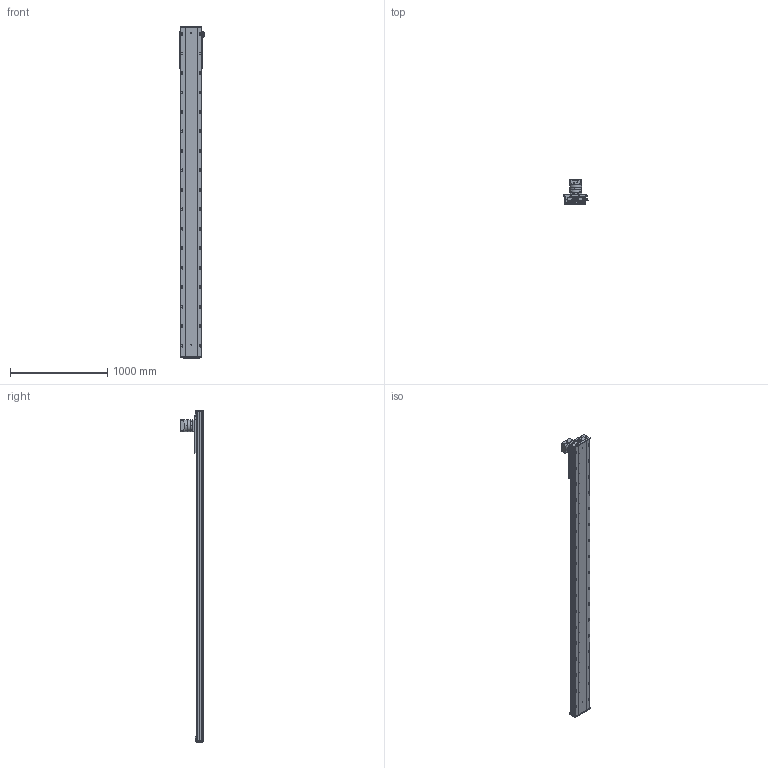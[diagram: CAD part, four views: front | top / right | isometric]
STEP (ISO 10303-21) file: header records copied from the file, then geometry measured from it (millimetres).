
FILE_DESCRIPTION (( 'STEP AP203' ), '1' );
FILE_NAME ('RY220-C-300-UK.SLDASM_2900.step', '2022-08-01T06:00:34', ( '' ), ( '' ), 'SwSTEP 2.0', 'SolidWorks 2016', '' );
FILE_SCHEMA (( 'CONFIG_CONTROL_DESIGN' ));
Length unit declared in the file: millimetre
Products named in the file (10): RY220喘沭俋离覜茼え; RY220喘沭綴裔啣; RY220-齿条模组电机安装板; RY220菁釱MK-300_2900; RY140直线电机感应器674光电安装座; RY220喘沭賑輸; 覜茼ん674; 滅袉蝶輸ㄗG412隅秶ㄘ; PF115L1-S2-22-58-110-145-M8; RY220-C-300-UK.SLDASM_2900
Assembly tree (12 placements, depth 2):
  RY220-C-300-UK.SLDASM_2900
    RY220菁釱MK-300_2900
    RY220喘沭賑輸
    RY220-齿条模组电机安装板
    PF115L1-S2-22-58-110-145-M8
    RY220喘沭綴裔啣  x2
    滅袉蝶輸ㄗG412隅秶ㄘ  x2
    RY140直线电机感应器674光电安装座
    覜茼ん674  x2
    RY220喘沭俋离覜茼え
Bounding box: 247 x 244.5 x 3409 mm (x, y, z)
Volume: 22621684.2 mm3; surface area: 4666670.6 mm2
Topology: 18 solids, 26 shells, 2412 faces, 6501 edges, 4047 vertices
Faces by surface type: cylinder 1181, plane 751, cone 318, bspline 162
Entity records: 76693 total; most frequent: CARTESIAN_POINT 20739, DIRECTION 11599, ORIENTED_EDGE 11266, EDGE_CURVE 5633, AXIS2_PLACEMENT_3D 4455, VERTEX_POINT 3673, EDGE_LOOP 2838, VECTOR 2689
